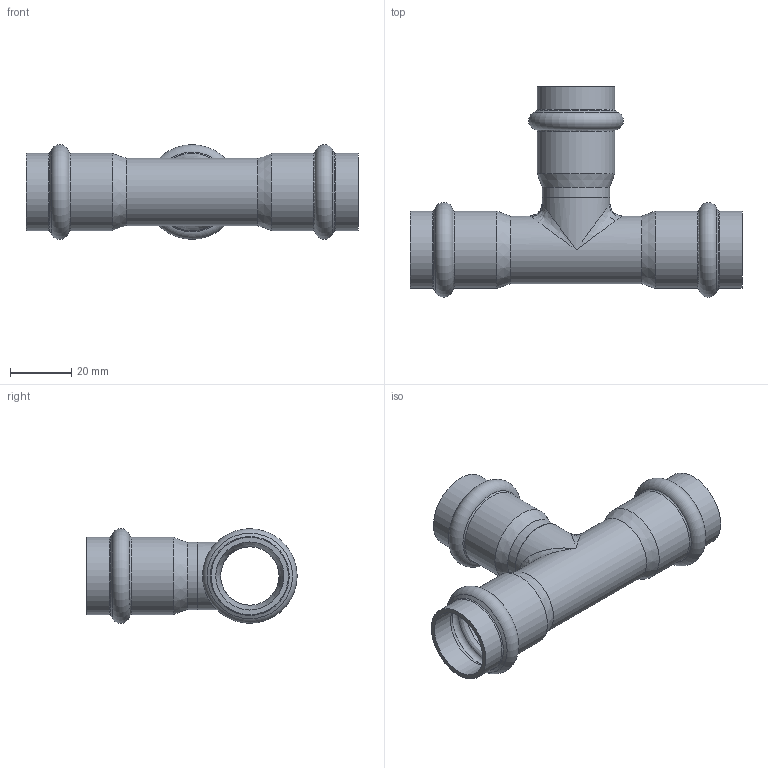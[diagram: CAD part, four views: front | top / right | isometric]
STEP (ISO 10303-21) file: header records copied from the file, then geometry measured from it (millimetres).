
FILE_DESCRIPTION((''),'2;1');
FILE_NAME('G:\Technics\CAD\Bauteile\022\6913022(1).stp','2008-02-18T10:48:59',('herberg'),(''),'Autodesk Inventor 2008','Autodesk Inventor 2008','');
FILE_SCHEMA(('AUTOMOTIVE_DESIGN { 1 0 10303 214 1 1 1 1 }'));
Length unit declared in the file: millimetre
Products named in the file (3): 6913022(1); 6913022LM(1); 6913022HM(0)
Assembly tree (2 placements, depth 2):
  6913022(1)
    6913022LM(1)
    6913022HM(0)
Bounding box: 108 x 68.39 x 30.79 mm (x, y, z)
Volume: 16971.5 mm3; surface area: 23150.1 mm2
Topology: 2 solids, 2 shells, 57 faces, 125 edges, 64 vertices
Faces by surface type: cylinder 18, bspline 15, cone 12, torus 7, plane 5
Full cylindrical faces by diameter (mm): 19 x3, 22 x3, 22.15 x6, 25.15 x6
Entity records: 2512 total; most frequent: CARTESIAN_POINT 1494, DIRECTION 214, ORIENTED_EDGE 120, EDGE_LOOP 112, AXIS2_PLACEMENT_3D 107, EDGE_CURVE 60, FACE_OUTER_BOUND 57, ADVANCED_FACE 57
